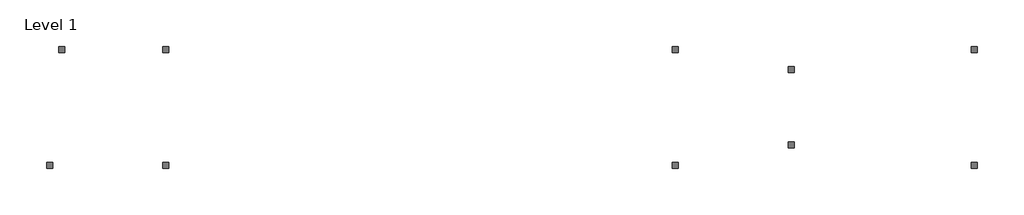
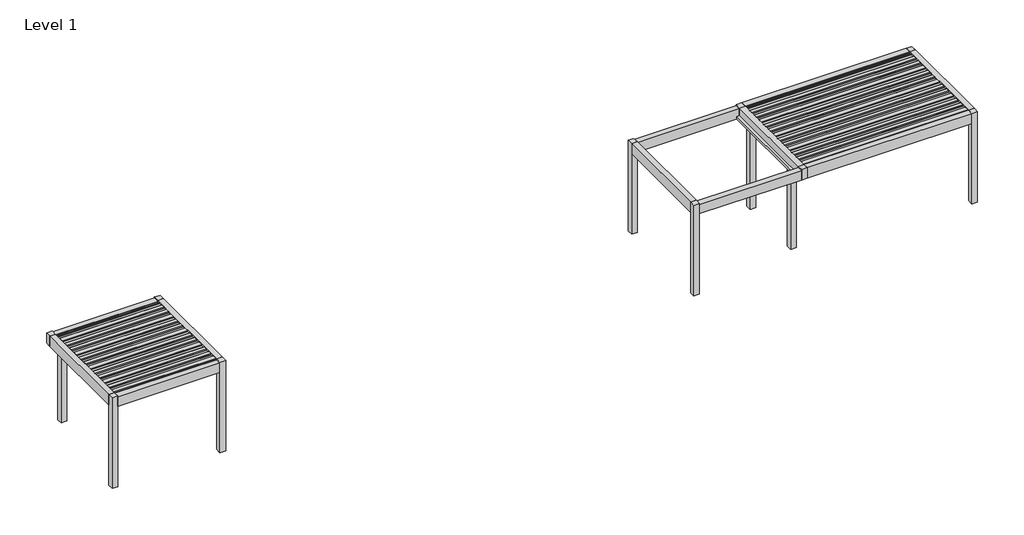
# One storey, part 76 of 80: 2 proxies.
"""IFC4 building model written with IfcOpenShell, lengths in millimetres."""

from ifc_helpers import new_model, si_unit, origin, place, context, project, spatial, transform, mapped, element, save
from components import generic_models_3b55bde2, generic_models_05e44dd0

model = new_model("IFC4")

# Units and contexts
model_context = context("Model", 3, world=origin())
ifc_project = project(units=[si_unit("LENGTHUNIT", "METRE", prefix="MILLI")], contexts=[model_context])

# Site, building, storey
site = spatial("IfcSite", under=ifc_project)
building = spatial("IfcBuilding", under=site)
storey = spatial("IfcBuildingStorey", under=building, Name="Level 1", Elevation=0.0)

# Proxies
placement = place(None, origin())
generic_models_shape = generic_models_3b55bde2(model_context)
element("IfcBuildingElementProxy", 1, Name="Renson_Amani_Patio_Cover : Renson_Amani_Patio_Cover", ObjectType="Renson_Amani_Patio_Cover : Renson_Amani_Patio_Cover", at=placement, inside=storey, context=model_context, shape_type="MappedRepresentation", body=[
    mapped(generic_models_shape, transform((285773.165057, 68078.5861401, 0.0), x_axis=(1.0, 0.0, 0.0), y_axis=(0.0, 1.0, 0.0), z_axis=(0.0, 0.0, 1.0))),
])
generic_models_2_shape = generic_models_05e44dd0(model_context)
element("IfcBuildingElementProxy", 2, Name="Renson_Amani_Patio_Cover : Renson_Amani_Patio_Cover", ObjectType="Renson_Amani_Patio_Cover : Renson_Amani_Patio_Cover", at=placement, inside=storey, context=model_context, shape_type="MappedRepresentation", body=[
    mapped(generic_models_2_shape, transform((301153.165057, 68078.5861401, 0.0), x_axis=(1.0, 0.0, 0.0), y_axis=(0.0, 1.0, 0.0), z_axis=(0.0, 0.0, 1.0))),
])

save(model, "model.ifc")
